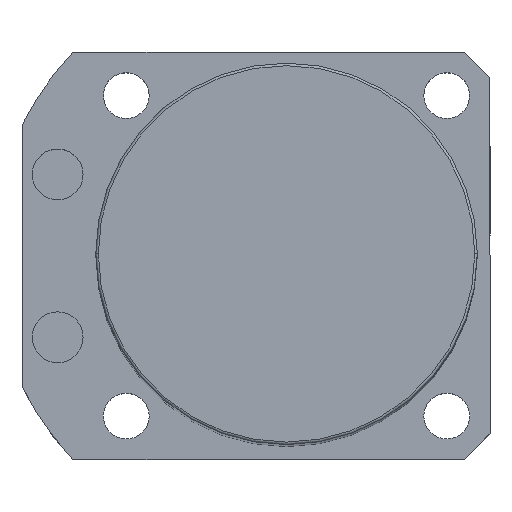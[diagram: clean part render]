
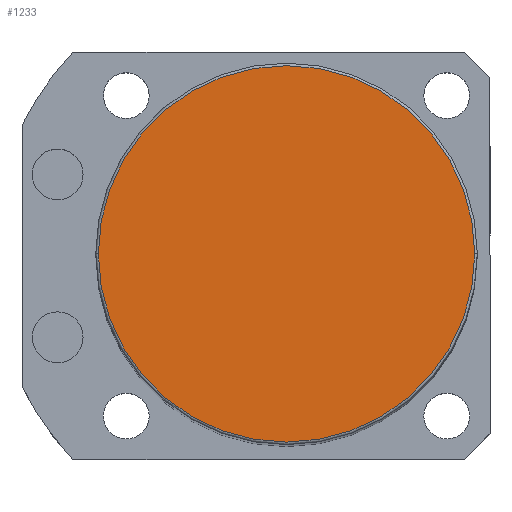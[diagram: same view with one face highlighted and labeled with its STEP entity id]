
A CAD part, top view. The second image highlights one B-rep face of the part: STEP entity #1233.
In plain terms, the highlighted planar face has unit normal (0, 0, 1).
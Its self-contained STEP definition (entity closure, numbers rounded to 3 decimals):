
#59 = CARTESIAN_POINT ( 'NONE',  ( 0., 0., 240.5 ) ) ;
#179 = VERTEX_POINT ( 'NONE', #985 ) ;
#188 = PLANE ( 'NONE',  #2518 ) ;
#336 = DIRECTION ( 'NONE',  ( 0., 0., 1. ) ) ;
#440 = FACE_OUTER_BOUND ( 'NONE', #2580, .T. ) ;
#689 = ORIENTED_EDGE ( 'NONE', *, *, #1803, .T. ) ;
#768 = AXIS2_PLACEMENT_3D ( 'NONE', #1346, #336, #1747 ) ;
#787 = DIRECTION ( 'NONE',  ( 0., 0., 1. ) ) ;
#824 = CIRCLE ( 'NONE', #2234, 37. ) ;
#871 = DIRECTION ( 'NONE',  ( 1., 0., 0. ) ) ;
#888 = VERTEX_POINT ( 'NONE', #1622 ) ;
#985 = CARTESIAN_POINT ( 'NONE',  ( 37., 0., 240.5 ) ) ;
#1233 = ADVANCED_FACE ( 'NONE', ( #440 ), #188, .T. ) ;
#1346 = CARTESIAN_POINT ( 'NONE',  ( 0., 0., 240.5 ) ) ;
#1622 = CARTESIAN_POINT ( 'NONE',  ( -37., 0., 240.5 ) ) ;
#1747 = DIRECTION ( 'NONE',  ( 1., 0., 0. ) ) ;
#1803 = EDGE_CURVE ( 'NONE', #888, #179, #824, .T. ) ;
#1971 = CARTESIAN_POINT ( 'NONE',  ( 0., 0., 240.5 ) ) ;
#2001 = DIRECTION ( 'NONE',  ( 1., 0., 0. ) ) ;
#2051 = EDGE_CURVE ( 'NONE', #179, #888, #2197, .T. ) ;
#2197 = CIRCLE ( 'NONE', #768, 37. ) ;
#2234 = AXIS2_PLACEMENT_3D ( 'NONE', #59, #2480, #871 ) ;
#2385 = ORIENTED_EDGE ( 'NONE', *, *, #2051, .T. ) ;
#2480 = DIRECTION ( 'NONE',  ( 0., 0., 1. ) ) ;
#2518 = AXIS2_PLACEMENT_3D ( 'NONE', #1971, #787, #2001 ) ;
#2580 = EDGE_LOOP ( 'NONE', ( #2385, #689 ) ) ;
